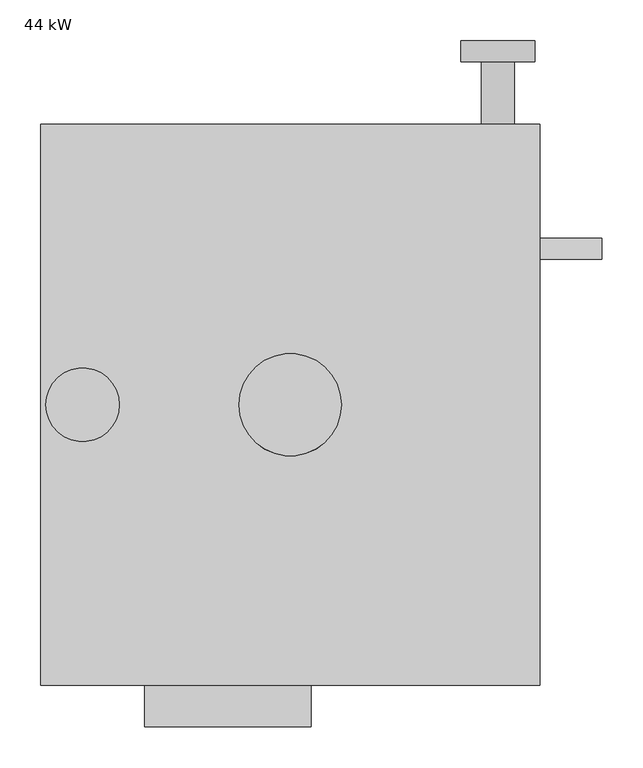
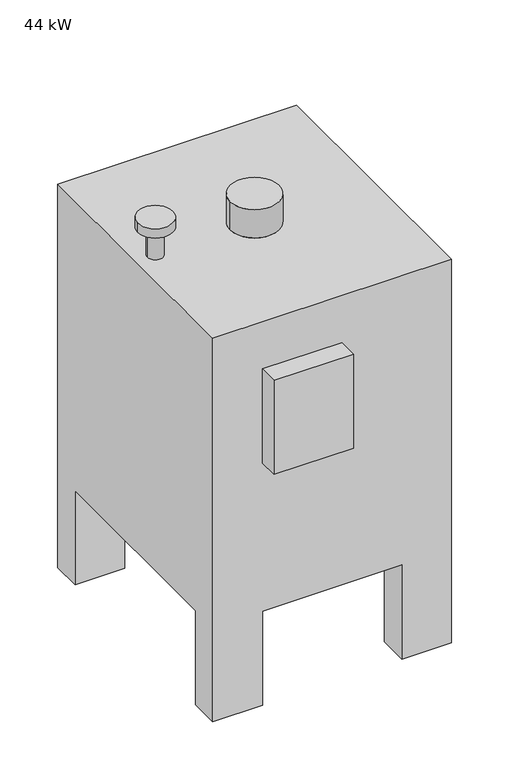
"""IFC4 building model written with IfcOpenShell, lengths in millimetres: proxy geometry, M_Watertube Boiler - 44-733 kW : 44 kW."""

import ifcopenshell
import ifcopenshell.guid

model = None  # the IFC model being written
_history = None  # IfcOwnerHistory: only IFC2X3 demands one
_inside = {}  # id of a spatial element -> (the spatial element, [elements in it])
_under = {}  # id of a project, library or spatial element -> (it, [spatial elements below it])
_declared = {}  # id of a project -> (the project, [libraries it declares])
_typed = {}  # id of a type object -> (the type object, [elements of that type])
_made_of = {}  # id of a material, layer set ... -> (it, [elements and type objects made of it])


def new_model(schema):
    """Start an empty IFC model of exactly this schema.

    Asked for "IFC4X3", IfcOpenShell would pick the latest addendum, in which some entities
    have other attributes; the version numbers below select the first issue.
    IFC2X3 requires an IfcOwnerHistory on every rooted entity: one is made here for all.
    """
    global model, _history
    if schema == "IFC4X3":
        model = ifcopenshell.file(schema_version=(4, 3, 0, 0))
    else:
        model = ifcopenshell.file(schema=schema)
    _inside.clear()
    _under.clear()
    _declared.clear()
    _typed.clear()
    _made_of.clear()
    _history = None
    if model.schema == "IFC2X3":
        org = make("IfcOrganization", Name="unknown")
        user = make(
            "IfcPersonAndOrganization",
            ThePerson=make("IfcPerson", FamilyName="unknown"),
            TheOrganization=org,
        )
        app = make(
            "IfcApplication",
            ApplicationDeveloper=org,
            Version="unknown",
            ApplicationFullName="unknown",
            ApplicationIdentifier="unknown",
        )
        _history = make(
            "IfcOwnerHistory",
            OwningUser=user,
            OwningApplication=app,
            ChangeAction="ADDED",
            CreationDate=0,
        )
    return model


def make(cls, **values):
    """One entity of the class cls with the attributes given. An attribute that is None is left unset."""
    return model.create_entity(
        cls, **{name: value for name, value in values.items() if value is not None}
    )


def rooted(cls, **values):
    """An entity with a GlobalId (a new one), such as an element, a storey or a relation."""
    return make(cls, GlobalId=ifcopenshell.guid.new(), OwnerHistory=_history, **values)


def si_unit(unit_type, name, prefix=None):
    """IfcSIUnit, for example si_unit("LENGTHUNIT", "METRE", prefix="MILLI")."""
    return make("IfcSIUnit", UnitType=unit_type, Prefix=prefix, Name=name)


def assignment(units):
    """IfcUnitAssignment: the units of a project."""
    return None if units is None else make("IfcUnitAssignment", Units=units)


def point(xyz):
    """IfcCartesianPoint."""
    return None if xyz is None else make("IfcCartesianPoint", Coordinates=xyz)


def direction(xyz):
    """IfcDirection."""
    return None if xyz is None else make("IfcDirection", DirectionRatios=xyz)


def frame(location, z_axis=None, x_axis=None):
    """IfcAxis2Placement3D, a coordinate frame: its origin and axes. An axis left out is left unset."""
    return make(
        "IfcAxis2Placement3D",
        Location=point(location),
        Axis=direction(z_axis),
        RefDirection=direction(x_axis),
    )


def frame_2d(location, x_axis=None):
    """IfcAxis2Placement2D, a coordinate frame in the plane: its origin and x axis."""
    return make(
        "IfcAxis2Placement2D", Location=point(location), RefDirection=direction(x_axis)
    )


def origin():
    """The frame at (0, 0, 0) with its axes left unset."""
    return frame((0.0, 0.0, 0.0))


def place(relative_to, where):
    """IfcLocalPlacement: puts the frame where relative to a parent placement (None: the world)."""
    return make(
        "IfcLocalPlacement", PlacementRelTo=relative_to, RelativePlacement=where
    )


def context(
    kind, dimensions, precision=None, world=None, true_north=None, identifier=None
):
    """IfcGeometricRepresentationContext, for example the 3D "Model" context."""
    return make(
        "IfcGeometricRepresentationContext",
        ContextIdentifier=identifier,
        ContextType=kind,
        CoordinateSpaceDimension=dimensions,
        Precision=precision,
        WorldCoordinateSystem=world,
        TrueNorth=true_north,
    )


def project(units=None, contexts=None):
    """IfcProject with its units and contexts."""
    return rooted(
        "IfcProject",
        Name="project",
        RepresentationContexts=contexts,
        UnitsInContext=assignment(units),
    )


def spatial(cls, under=None, at=None, **own):
    """A site, building, storey or space (cls), placed at a placement, below another one or the project."""
    s = rooted(cls, ObjectPlacement=at, **own)
    if under is not None:
        _under.setdefault(under.id(), (under, []))[1].append(s)
    return s


def circle_curve(where, radius):
    """IfcCircle in the frame where."""
    return make("IfcCircle", Position=where, Radius=radius)


def trimmed(basis, trim1, trim2, sense, master):
    """IfcTrimmedCurve: the piece of a basis curve between two trims."""
    return make(
        "IfcTrimmedCurve",
        BasisCurve=basis,
        Trim1=trim1,
        Trim2=trim2,
        SenseAgreement=sense,
        MasterRepresentation=master,
    )


def segment(curve, same_sense, transition):
    """IfcCompositeCurveSegment."""
    return make(
        "IfcCompositeCurveSegment",
        Transition=transition,
        SameSense=same_sense,
        ParentCurve=curve,
    )


def composite_curve(segments, self_intersect=None):
    """IfcCompositeCurve: segments joined end to end."""
    return make("IfcCompositeCurve", Segments=segments, SelfIntersect=self_intersect)


def outline(outer, holes=None, kind="AREA"):
    """IfcArbitraryClosedProfileDef: a profile drawn as a closed curve; with holes, ...WithVoids."""
    if holes is None:
        return make("IfcArbitraryClosedProfileDef", ProfileType=kind, OuterCurve=outer)
    return make(
        "IfcArbitraryProfileDefWithVoids",
        ProfileType=kind,
        OuterCurve=outer,
        InnerCurves=holes,
    )


def extrude(swept, where, along, depth):
    """IfcExtrudedAreaSolid: the profile swept, set in the frame where, extruded along a direction by depth."""
    return make(
        "IfcExtrudedAreaSolid",
        SweptArea=swept,
        Position=where,
        ExtrudedDirection=direction(along),
        Depth=depth,
    )


def shape(context_of_items, identifier, shape_type, items):
    """IfcShapeRepresentation: the items that make up one representation, for example the "Body"."""
    return make(
        "IfcShapeRepresentation",
        ContextOfItems=context_of_items,
        RepresentationIdentifier=identifier,
        RepresentationType=shape_type,
        Items=items,
    )


def source(mapping_origin, context_of_items, identifier, shape_type, items):
    """IfcRepresentationMap: a shape defined once, which mapped items show again and again."""
    return make(
        "IfcRepresentationMap",
        MappingOrigin=mapping_origin,
        MappedRepresentation=shape(context_of_items, identifier, shape_type, items),
    )


def transform(
    local_origin,
    x_axis=None,
    y_axis=None,
    z_axis=None,
    scale=None,
    scale2=None,
    scale3=None,
    uniform=True,
):
    """IfcCartesianTransformationOperator3D, or its non-uniform kind. x_axis, y_axis, z_axis: its Axis1, 2, 3."""
    if uniform:
        return make(
            "IfcCartesianTransformationOperator3D",
            Axis1=direction(x_axis),
            Axis2=direction(y_axis),
            LocalOrigin=point(local_origin),
            Scale=scale,
            Axis3=direction(z_axis),
        )
    return make(
        "IfcCartesianTransformationOperator3DnonUniform",
        Axis1=direction(x_axis),
        Axis2=direction(y_axis),
        LocalOrigin=point(local_origin),
        Scale=scale,
        Axis3=direction(z_axis),
        Scale2=scale2,
        Scale3=scale3,
    )


def mapped(mapping_source, mapping_target):
    """IfcMappedItem: shows the shape of a source again, moved by a transform."""
    return make(
        "IfcMappedItem", MappingSource=mapping_source, MappingTarget=mapping_target
    )


def made_of(thing, what):
    """Note that an element or type object is made of a material, layer set ...; save() writes the relation."""
    if what is not None:
        _made_of.setdefault(what.id(), (what, []))[1].append(thing)
    return thing


def element(
    cls,
    number,
    at=None,
    inside=None,
    cuts=None,
    type_object=None,
    material=None,
    context=None,
    identifier="Body",
    shape_type=None,
    held_by="IfcProductDefinitionShape",
    body=None,
    shapes=None,
    **own,
):
    """One element of the class cls, such as IfcWall. Its Tag is "e" and its number.

    at: its placement. inside: the storey or other place that contains it. cuts: it is an
    opening in that element (IfcRelVoidsElement). A single representation is given by context,
    identifier, shape_type and body (its items); several are given by shapes. held_by: the class
    of the entity that holds the representations. save() writes the other relations.
    """
    e = rooted(cls, Tag="e%d" % number, ObjectPlacement=at, **own)
    if body is not None:
        shapes = [shape(context, identifier, shape_type, body)]
    if shapes is not None:
        e.Representation = make(held_by, Representations=shapes)
    if inside is not None:
        _inside.setdefault(inside.id(), (inside, []))[1].append(e)
    if cuts is not None:
        rooted(
            "IfcRelVoidsElement", RelatingBuildingElement=cuts, RelatedOpeningElement=e
        )
    if type_object is not None:
        _typed.setdefault(type_object.id(), (type_object, []))[1].append(e)
    return made_of(e, material)


def aggregate(whole, parts):
    """IfcRelAggregates: a whole, such as a stair, and the parts it consists of."""
    return rooted("IfcRelAggregates", RelatingObject=whole, RelatedObjects=parts)


def save(model, path):
    """Write the relations noted so far, then the file.

    IfcRelAggregates (storeys below a building ...), IfcRelContainedInSpatialStructure (elements
    in a storey), IfcRelDefinesByType, IfcRelAssociatesMaterial and IfcRelDeclares: one each for
    every whole, place, type object, material and project.
    """
    for whole, parts in _under.values():
        aggregate(whole, parts)
    for where, things in _inside.values():
        rooted(
            "IfcRelContainedInSpatialStructure",
            RelatedElements=things,
            RelatingStructure=where,
        )
    for kind, things in _typed.values():
        rooted("IfcRelDefinesByType", RelatedObjects=things, RelatingType=kind)
    for what, things in _made_of.values():
        rooted("IfcRelAssociatesMaterial", RelatedObjects=things, RelatingMaterial=what)
    for by, libraries in _declared.values():
        rooted("IfcRelDeclares", RelatingContext=by, RelatedDefinitions=libraries)
    model.write(path)


def plane_surface(at):
    """IfcPlane: the flat surface through the origin of the frame at, square to its z axis."""
    return make("IfcPlane", Position=at)


def cylinder_surface(at, radius):
    """IfcCylindricalSurface: all points at the distance radius from the z axis of the frame at."""
    return make("IfcCylindricalSurface", Position=at, Radius=radius)


def advanced_brep(points, edges, surfaces, faces):
    """IfcAdvancedBrep: a solid bounded by faces that lie on surfaces and meet in shared edges.

    An edge is (start, end): straight between two places in points (the first is 0);
    or (start, end, curve); or (start, end, curve, False) where it runs against its curve.
    A face is (place in surfaces, loops), or (place, loops, False) where it looks against
    its surface's normal. A loop lists edges by number (the first is 1), with a minus sign
    where the edge is run from its end to its start. The first loop is the outer one.
    """
    corners = [point(p) for p in points]
    vertices = [make("IfcVertexPoint", VertexGeometry=c) for c in corners]
    made = []
    for start, end, *more in edges:
        made.append(
            make(
                "IfcEdgeCurve",
                EdgeStart=vertices[start],
                EdgeEnd=vertices[end],
                EdgeGeometry=more[0] if more else make("IfcPolyline", Points=[corners[start], corners[end]]),
                SameSense=more[1] if len(more) > 1 else True,
            )
        )
    hull = []
    for where, loops, *sense in faces:
        bounds = []
        for j, loop in enumerate(loops):
            ring = [make("IfcOrientedEdge", EdgeElement=made[abs(k) - 1], Orientation=k > 0) for k in loop]
            bounds.append(
                make(
                    "IfcFaceOuterBound" if j == 0 else "IfcFaceBound",
                    Bound=make("IfcEdgeLoop", EdgeList=ring),
                    Orientation=True,
                )
            )
        hull.append(make("IfcAdvancedFace", Bounds=bounds, FaceSurface=surfaces[where], SameSense=sense[0] if sense else True))
    return make("IfcAdvancedBrep", Outer=make("IfcClosedShell", CfsFaces=hull))


def proxy_44_kw_9a0c1582(model_context):
    return source(origin(), model_context, "Body", "SolidModel", [
        extrude(outline(composite_curve([segment(trimmed(circle_curve(frame_2d((356.0, 203.2)), 10.0), [point((346.0, 203.2))], [point((366.0, 203.2))], False, "CARTESIAN"), True, "CONTINUOUS"), segment(trimmed(circle_curve(frame_2d((356.0, 203.2)), 10.0), [point((366.0, 203.2))], [point((346.0, 203.2))], False, "CARTESIAN"), True, "CONTINUOUS")], self_intersect=False)), frame((0.0, 0.0, 177.8), z_axis=(0.0, 0.0, 1.0), x_axis=(1.0, 0.0, 0.0)), (0.0, 0.0, 1.0), 76.2),
        extrude(outline(composite_curve([segment(trimmed(circle_curve(frame_2d((533.6, 508.0)), 12.7), [point((520.9, 508.0))], [point((546.3, 508.0))], False, "CARTESIAN"), True, "CONTINUOUS"), segment(trimmed(circle_curve(frame_2d((533.6, 508.0)), 12.7), [point((546.3, 508.0))], [point((520.9, 508.0))], False, "CARTESIAN"), True, "CONTINUOUS")], self_intersect=False)), frame((610.0, 0.0, 0.0), z_axis=(1.0, 0.0, 0.0), x_axis=(0.0, 1.0, 0.0)), (0.0, 0.0, 1.0), 76.2),
        extrude(outline(composite_curve([segment(trimmed(circle_curve(frame_2d((692.0, 559.0)), 45.0), [point((692.0, 514.0))], [point((692.0, 604.0))], False, "CARTESIAN"), True, "CONTINUOUS"), segment(trimmed(circle_curve(frame_2d((692.0, 559.0)), 45.0), [point((692.0, 604.0))], [point((692.0, 514.0))], False, "CARTESIAN"), True, "CONTINUOUS")], self_intersect=False)), frame((0.0, 762.2, 0.0), z_axis=(0.0, 1.0, 0.0), x_axis=(0.0, 0.0, 1.0)), (0.0, 0.0, 1.0), 25.4),
        extrude(outline(composite_curve([segment(trimmed(circle_curve(frame_2d((692.0, 559.0)), 20.0), [point((692.0, 539.0))], [point((692.0, 579.0))], False, "CARTESIAN"), True, "CONTINUOUS"), segment(trimmed(circle_curve(frame_2d((692.0, 559.0)), 20.0), [point((692.0, 579.0))], [point((692.0, 539.0))], False, "CARTESIAN"), True, "CONTINUOUS")], self_intersect=False)), frame((0.0, 686.0, 0.0), z_axis=(0.0, 1.0, 0.0), x_axis=(0.0, 0.0, 1.0)), (0.0, 0.0, 1.0), 76.2),
        advanced_brep(
        [(610.0, 686.0, 1035.0), (0.0, 686.0, 1035.0), (0.0, 0.0, 1035.0), (610.0, 0.0, 1035.0), (367.5, 343.0, 1035.0), (242.5, 343.0, 1035.0), (71.0, 343.0, 1035.0), (31.0, 343.0, 1035.0), (483.0, 609.8, 254.0), (610.0, 609.8, 254.0), (610.0, 76.2, 254.0), (483.0, 76.2, 254.0), (483.0, 0.0, 254.0), (127.0, 0.0, 254.0), (127.0, 76.2, 254.0), (0.0, 76.2, 254.0), (0.0, 609.8, 254.0), (127.0, 609.8, 254.0), (127.0, 686.0, 254.0), (483.0, 686.0, 254.0), (610.0, 686.0, 0.0), (483.0, 686.0, 0.0), (127.0, 686.0, 0.0), (0.0, 686.0, 0.0), (0.0, 609.8, 0.0), (0.0, 76.2, 0.0), (0.0, 0.0, 0.0), (127.0, 0.0, 0.0), (483.0, 0.0, 0.0), (610.0, 0.0, 0.0), (127.0, 0.0, 908.0), (330.2, 0.0, 908.0), (330.2, 0.0, 654.0), (127.0, 0.0, 654.0), (610.0, 76.2, 0.0), (610.0, 609.8, 0.0), (242.5, 343.0, 1111.2), (367.5, 343.0, 1111.2), (31.0, 343.0, 1111.2), (71.0, 343.0, 1111.2), (6.0, 343.0, 1136.6), (96.0, 343.0, 1136.6), (6.0, 343.0, 1111.2), (96.0, 343.0, 1111.2), (483.0, 609.8, 0.0), (127.0, 609.8, 0.0), (483.0, 76.2, 0.0), (127.0, 76.2, 0.0), (127.0, -50.8, 908.0), (330.2, -50.8, 908.0), (330.2, -50.8, 654.0), (127.0, -50.8, 654.0)],
        [
            (0, 1),
            (1, 2),
            (2, 3),
            (3, 0),
            (4, 5, circle_curve(frame((305.0, 343.0, 1035.0), z_axis=(0.0, 0.0, -1.0), x_axis=(1.0, 0.0, 0.0)), 62.5)),
            (5, 4, circle_curve(frame((305.0, 343.0, 1035.0), z_axis=(0.0, 0.0, -1.0), x_axis=(1.0, 0.0, 0.0)), 62.5)),
            (6, 7, circle_curve(frame((51.0, 343.0, 1035.0), z_axis=(0.0, 0.0, -1.0), x_axis=(1.0, 0.0, 0.0)), 20.0)),
            (7, 6, circle_curve(frame((51.0, 343.0, 1035.0), z_axis=(0.0, 0.0, -1.0), x_axis=(1.0, 0.0, 0.0)), 20.0)),
            (8, 9),
            (9, 10),
            (10, 11),
            (11, 12),
            (12, 13),
            (13, 14),
            (14, 15),
            (15, 16),
            (16, 17),
            (17, 18),
            (18, 19),
            (19, 8),
            (0, 20),
            (20, 21),
            (21, 19),
            (18, 22),
            (22, 23),
            (23, 1),
            (23, 24),
            (24, 16),
            (15, 25),
            (25, 26),
            (26, 2),
            (26, 27),
            (27, 13),
            (12, 28),
            (28, 29),
            (29, 3),
            (30, 31),
            (31, 32),
            (32, 33),
            (33, 30),
            (29, 34),
            (34, 10),
            (9, 35),
            (35, 20),
            (36, 37, circle_curve(frame((305.0, 343.0, 1111.2), z_axis=(0.0, 0.0, 1.0), x_axis=(1.0, 0.0, 0.0)), 62.5)),
            (37, 36, circle_curve(frame((305.0, 343.0, 1111.2), z_axis=(0.0, 0.0, 1.0), x_axis=(1.0, 0.0, 0.0)), 62.5)),
            (36, 5),
            (4, 37),
            (38, 7),
            (6, 39),
            (39, 38, circle_curve(frame((51.0, 343.0, 1111.2), z_axis=(0.0, 0.0, -1.0), x_axis=(1.0, 0.0, 0.0)), 20.0)),
            (38, 39, circle_curve(frame((51.0, 343.0, 1111.2), z_axis=(0.0, 0.0, -1.0), x_axis=(1.0, 0.0, 0.0)), 20.0)),
            (40, 41, circle_curve(frame((51.0, 343.0, 1136.6), z_axis=(0.0, 0.0, 1.0), x_axis=(1.0, 0.0, 0.0)), 45.0)),
            (41, 40, circle_curve(frame((51.0, 343.0, 1136.6), z_axis=(0.0, 0.0, 1.0), x_axis=(1.0, 0.0, 0.0)), 45.0)),
            (42, 43, circle_curve(frame((51.0, 343.0, 1111.2), z_axis=(0.0, 0.0, -1.0), x_axis=(1.0, 0.0, 0.0)), 45.0)),
            (43, 42, circle_curve(frame((51.0, 343.0, 1111.2), z_axis=(0.0, 0.0, -1.0), x_axis=(1.0, 0.0, 0.0)), 45.0)),
            (40, 42),
            (43, 41),
            (8, 44),
            (44, 35),
            (44, 21),
            (24, 45),
            (45, 17),
            (45, 22),
            (34, 46),
            (46, 11),
            (46, 28),
            (14, 47),
            (47, 25),
            (47, 27),
            (30, 48),
            (48, 49),
            (49, 31),
            (32, 50),
            (50, 51),
            (51, 33),
            (51, 48),
            (50, 49),
        ],
        [
            plane_surface(frame((0.0, 686.0, 1035.0), z_axis=(0.0, 0.0, 1.0), x_axis=(-1.0, 0.0, 0.0))),
            plane_surface(frame((0.0, 686.0, 254.0), z_axis=(0.0, 0.0, -1.0), x_axis=(1.0, 0.0, 0.0))),
            plane_surface(frame((610.0, 686.0, 1035.0), z_axis=(0.0, 1.0, 0.0), x_axis=(0.0, 0.0, -1.0))),
            plane_surface(frame((0.0, 686.0, 1035.0), z_axis=(-1.0, 0.0, 0.0), x_axis=(0.0, 0.0, -1.0))),
            plane_surface(frame((0.0, 0.0, 1035.0), z_axis=(0.0, -1.0, 0.0), x_axis=(0.0, 0.0, -1.0))),
            plane_surface(frame((610.0, 0.0, 1035.0), z_axis=(1.0, 0.0, 0.0), x_axis=(0.0, 0.0, -1.0))),
            plane_surface(frame((367.5, 343.0, 1111.2), z_axis=(0.0, 0.0, 1.0), x_axis=(0.0, 1.0, 0.0))),
            cylinder_surface(frame((305.0, 343.0, 1035.0), z_axis=(0.0, 0.0, 1.0), x_axis=(1.0, 0.0, 0.0)), 62.5),
            cylinder_surface(frame((51.0, 343.0, 1035.0), z_axis=(0.0, 0.0, 1.0), x_axis=(1.0, 0.0, 0.0)), 20.0),
            plane_surface(frame((96.0, 343.0, 1136.6), z_axis=(0.0, 0.0, 1.0), x_axis=(0.0, 1.0, 0.0))),
            plane_surface(frame((96.0, 343.0, 1111.2), z_axis=(0.0, 0.0, -1.0), x_axis=(0.0, -1.0, 0.0))),
            cylinder_surface(frame((51.0, 343.0, 1111.2), z_axis=(0.0, 0.0, 1.0), x_axis=(1.0, 0.0, 0.0)), 45.0),
            plane_surface(frame((610.0, 609.8, 254.0), z_axis=(0.0, -1.0, 0.0), x_axis=(-1.0, 0.0, 0.0))),
            plane_surface(frame((610.0, 686.0, 0.0), z_axis=(0.0, 0.0, -1.0), x_axis=(0.0, -1.0, 0.0))),
            plane_surface(frame((483.0, 686.0, 0.0), z_axis=(-1.0, 0.0, 0.0), x_axis=(0.0, -1.0, 0.0))),
            plane_surface(frame((127.0, 609.8, 254.0), z_axis=(0.0, -1.0, 0.0), x_axis=(0.0, 0.0, 1.0))),
            plane_surface(frame((127.0, 686.0, 254.0), z_axis=(1.0, 0.0, 0.0), x_axis=(0.0, -1.0, 0.0))),
            plane_surface(frame((127.0, 686.0, 0.0), z_axis=(0.0, 0.0, -1.0), x_axis=(0.0, -1.0, 0.0))),
            plane_surface(frame((483.0, 76.2, 254.0), z_axis=(0.0, 1.0, 0.0), x_axis=(0.0, 0.0, 1.0))),
            plane_surface(frame((483.0, 0.0, 254.0), z_axis=(-1.0, 0.0, 0.0), x_axis=(0.0, 1.0, 0.0))),
            plane_surface(frame((483.0, 0.0, 0.0), z_axis=(0.0, 0.0, -1.0), x_axis=(0.0, 1.0, 0.0))),
            plane_surface(frame((0.0, 76.2, 254.0), z_axis=(0.0, 1.0, 0.0), x_axis=(1.0, 0.0, 0.0))),
            plane_surface(frame((0.0, 0.0, 0.0), z_axis=(0.0, 0.0, -1.0), x_axis=(0.0, 1.0, 0.0))),
            plane_surface(frame((127.0, 0.0, 0.0), z_axis=(1.0, 0.0, 0.0), x_axis=(0.0, 1.0, 0.0))),
            plane_surface(frame((127.0, 0.0, 908.0), z_axis=(0.0, 0.0, 1.0), x_axis=(-1.0, 0.0, 0.0))),
            plane_surface(frame((127.0, 0.0, 654.0), z_axis=(0.0, 0.0, -1.0), x_axis=(1.0, 0.0, 0.0))),
            plane_surface(frame((127.0, 0.0, 908.0), z_axis=(-1.0, 0.0, 0.0), x_axis=(0.0, 0.0, -1.0))),
            plane_surface(frame((127.0, -50.8, 908.0), z_axis=(0.0, -1.0, 0.0), x_axis=(0.0, 0.0, -1.0))),
            plane_surface(frame((330.2, -50.8, 908.0), z_axis=(1.0, 0.0, 0.0), x_axis=(0.0, 0.0, -1.0))),
        ],
        [
            (0, [[1, 2, 3, 4], [5, 6], [7, 8]]),
            (1, [[9, 10, 11, 12, 13, 14, 15, 16, 17, 18, 19, 20]]),
            (2, [[-1, 21, 22, 23, -19, 24, 25, 26]]),
            (3, [[-2, -26, 27, 28, -16, 29, 30, 31]]),
            (4, [[-3, -31, 32, 33, -13, 34, 35, 36], [37, 38, 39, 40]]),
            (5, [[-4, -36, 41, 42, -10, 43, 44, -21]]),
            (6, [[45, 46]]),
            (7, [[-45, 47, -5, 48]]),
            (7, [[-46, -48, -6, -47]]),
            (8, [[49, -7, 50, 51]]),
            (8, [[-49, 52, -50, -8]]),
            (9, [[53, 54]]),
            (10, [[55, 56], [-51, -52]]),
            (11, [[-53, 57, -56, 58]]),
            (11, [[-54, -58, -55, -57]]),
            (12, [[59, 60, -43, -9]]),
            (13, [[-22, -44, -60, 61]]),
            (14, [[-23, -61, -59, -20]]),
            (15, [[-28, 62, 63, -17]]),
            (16, [[-24, -18, -63, 64]]),
            (17, [[-25, -64, -62, -27]]),
            (18, [[-42, 65, 66, -11]]),
            (19, [[-34, -12, -66, 67]]),
            (20, [[-35, -67, -65, -41]]),
            (21, [[68, 69, -29, -15]]),
            (22, [[-32, -30, -69, 70]]),
            (23, [[-33, -70, -68, -14]]),
            (24, [[71, 72, 73, -37]]),
            (25, [[74, 75, 76, -39]]),
            (26, [[-71, -40, -76, 77]]),
            (27, [[-72, -77, -75, 78]]),
            (28, [[-73, -78, -74, -38]]),
        ],
    ),
        extrude(outline(composite_curve([segment(trimmed(circle_curve(frame_2d((533.6, 508.0)), 12.7), [point((520.9, 508.0))], [point((546.3, 508.0))], False, "CARTESIAN"), True, "CONTINUOUS"), segment(trimmed(circle_curve(frame_2d((533.6, 508.0)), 12.7), [point((546.3, 508.0))], [point((520.9, 508.0))], False, "CARTESIAN"), True, "CONTINUOUS")], self_intersect=False)), frame((610.0, 0.0, 0.0), z_axis=(1.0, 0.0, 0.0), x_axis=(0.0, 1.0, 0.0)), (0.0, 0.0, 1.0), 76.2),
        extrude(outline(composite_curve([segment(trimmed(circle_curve(frame_2d((692.0, 559.0)), 20.0), [point((692.0, 539.0))], [point((692.0, 579.0))], False, "CARTESIAN"), True, "CONTINUOUS"), segment(trimmed(circle_curve(frame_2d((692.0, 559.0)), 20.0), [point((692.0, 579.0))], [point((692.0, 539.0))], False, "CARTESIAN"), True, "CONTINUOUS")], self_intersect=False)), frame((0.0, 686.0, 0.0), z_axis=(0.0, 1.0, 0.0), x_axis=(0.0, 0.0, 1.0)), (0.0, 0.0, 1.0), 76.2),
        extrude(outline(composite_curve([segment(trimmed(circle_curve(frame_2d((692.0, 559.0)), 45.0), [point((692.0, 514.0))], [point((692.0, 604.0))], False, "CARTESIAN"), True, "CONTINUOUS"), segment(trimmed(circle_curve(frame_2d((692.0, 559.0)), 45.0), [point((692.0, 604.0))], [point((692.0, 514.0))], False, "CARTESIAN"), True, "CONTINUOUS")], self_intersect=False)), frame((0.0, 762.2, 0.0), z_axis=(0.0, 1.0, 0.0), x_axis=(0.0, 0.0, 1.0)), (0.0, 0.0, 1.0), 25.4),
    ])


if __name__ == "__main__":
    model = new_model("IFC4")
    model_context = context("Model", 3, world=origin())
    ifc_project = project(units=[si_unit("LENGTHUNIT", "METRE", prefix="MILLI")], contexts=[model_context])
    site = spatial("IfcSite", under=ifc_project)
    building = spatial("IfcBuilding", under=site)
    placement = place(None, origin())
    proxy_44_kw_shape = proxy_44_kw_9a0c1582(model_context)
    element("IfcBuildingElementProxy", 1, Name="M_Watertube Boiler - 44-733 kW : 44 kW", ObjectType="M_Watertube Boiler - 44-733 kW : 44 kW", at=placement, inside=building, context=model_context, shape_type="MappedRepresentation", body=[
        mapped(proxy_44_kw_shape, transform((0.0, 0.0, 0.0), x_axis=(1.0, 0.0, 0.0), y_axis=(0.0, 1.0, 0.0), z_axis=(0.0, 0.0, 1.0))),
    ])
    save(model, "model.ifc")
